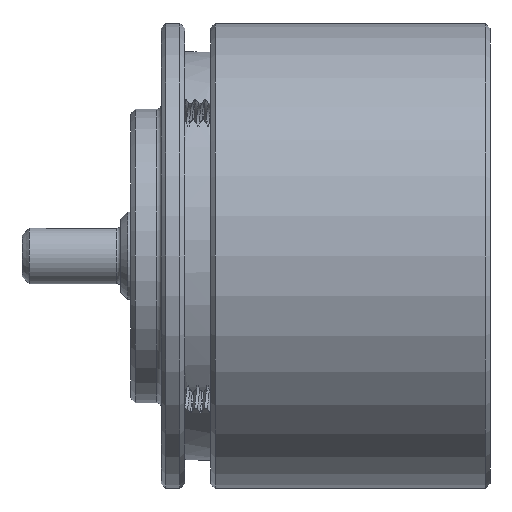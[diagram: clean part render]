
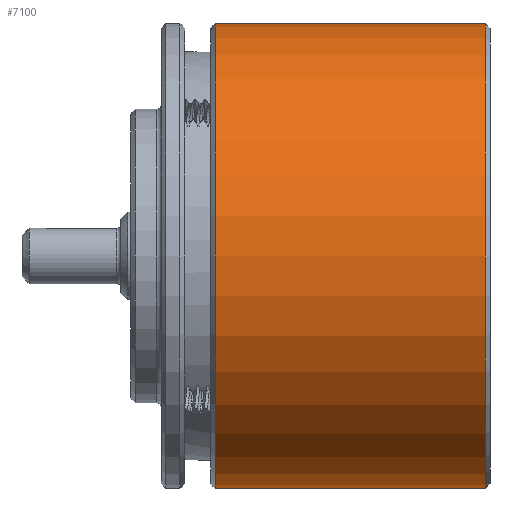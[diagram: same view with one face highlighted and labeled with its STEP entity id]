
A CAD part, front view. The second image highlights one B-rep face of the part: STEP entity #7100.
In plain terms, the highlighted cylindrical face has radius 25.146 mm (diameter 50.292 mm), a full revolution.
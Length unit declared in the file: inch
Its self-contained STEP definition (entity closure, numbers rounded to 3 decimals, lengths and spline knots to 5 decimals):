
#403=FACE_OUTER_BOUND('',#822,.T.);
#822=EDGE_LOOP('',(#5055,#5056,#5057,#5058,#5059,#5060));
#1481=CIRCLE('',#7590,0.99);
#1482=CIRCLE('',#7591,0.99);
#1484=CIRCLE('',#7595,0.99);
#1485=CIRCLE('',#7596,0.99);
#1694=LINE('',#11604,#2365);
#2365=VECTOR('',#8396,0.99);
#3163=VERTEX_POINT('',#11594);
#3164=VERTEX_POINT('',#11596);
#3166=VERTEX_POINT('',#11603);
#3167=VERTEX_POINT('',#11605);
#3910=EDGE_CURVE('',#3163,#3164,#1481,.T.);
#3911=EDGE_CURVE('',#3164,#3163,#1482,.T.);
#3913=EDGE_CURVE('',#3164,#3166,#1694,.T.);
#3914=EDGE_CURVE('',#3167,#3166,#1484,.T.);
#3915=EDGE_CURVE('',#3166,#3167,#1485,.T.);
#5055=ORIENTED_EDGE('',*,*,#3910,.F.);
#5056=ORIENTED_EDGE('',*,*,#3911,.F.);
#5057=ORIENTED_EDGE('',*,*,#3913,.T.);
#5058=ORIENTED_EDGE('',*,*,#3914,.F.);
#5059=ORIENTED_EDGE('',*,*,#3915,.F.);
#5060=ORIENTED_EDGE('',*,*,#3913,.F.);
#6962=CYLINDRICAL_SURFACE('',#7594,0.99);
#7100=ADVANCED_FACE('',(#403),#6962,.T.);
#7590=AXIS2_PLACEMENT_3D('',#11597,#8386,#8387);
#7591=AXIS2_PLACEMENT_3D('',#11598,#8388,#8389);
#7594=AXIS2_PLACEMENT_3D('',#11602,#8394,#8395);
#7595=AXIS2_PLACEMENT_3D('',#11606,#8397,#8398);
#7596=AXIS2_PLACEMENT_3D('',#11607,#8399,#8400);
#8386=DIRECTION('center_axis',(-1.,0.,0.));
#8387=DIRECTION('ref_axis',(0.,0.,-1.));
#8388=DIRECTION('center_axis',(-1.,0.,0.));
#8389=DIRECTION('ref_axis',(0.,0.,-1.));
#8394=DIRECTION('center_axis',(-1.,0.,0.));
#8395=DIRECTION('ref_axis',(0.,0.,1.));
#8396=DIRECTION('',(1.,0.,0.));
#8397=DIRECTION('center_axis',(1.,0.,0.));
#8398=DIRECTION('ref_axis',(0.,0.,-1.));
#8399=DIRECTION('center_axis',(1.,0.,0.));
#8400=DIRECTION('ref_axis',(0.,0.,-1.));
#11594=CARTESIAN_POINT('',(-0.61,0.,0.99));
#11596=CARTESIAN_POINT('',(-0.61,0.,-0.99));
#11597=CARTESIAN_POINT('Origin',(-0.61,0.,0.));
#11598=CARTESIAN_POINT('Origin',(-0.61,0.,0.));
#11602=CARTESIAN_POINT('Origin',(-0.035,0.,0.));
#11603=CARTESIAN_POINT('',(0.54,0.,-0.99));
#11604=CARTESIAN_POINT('',(-0.035,0.,-0.99));
#11605=CARTESIAN_POINT('',(0.54,0.,0.99));
#11606=CARTESIAN_POINT('Origin',(0.54,0.,0.));
#11607=CARTESIAN_POINT('Origin',(0.54,0.,0.));
